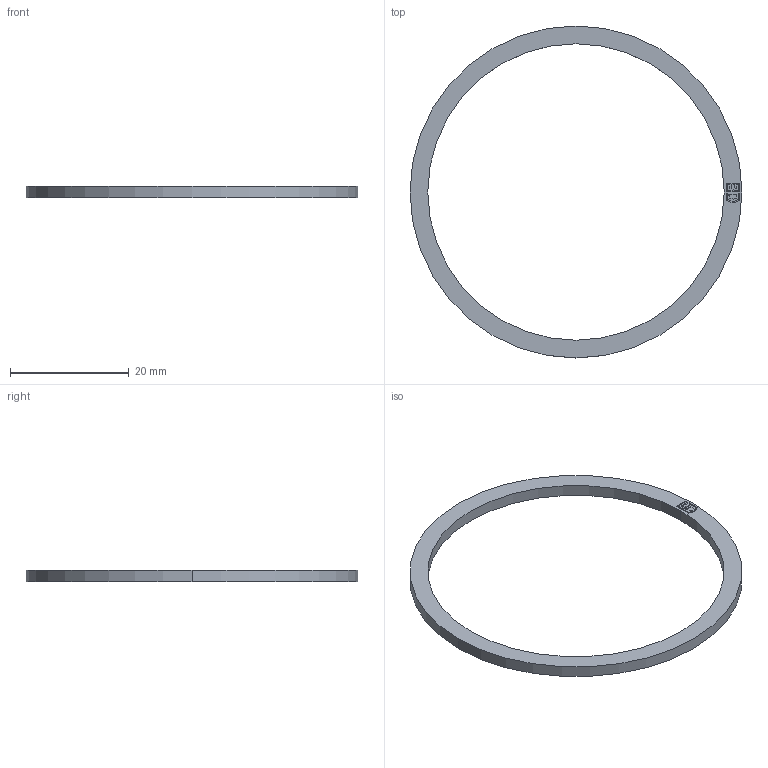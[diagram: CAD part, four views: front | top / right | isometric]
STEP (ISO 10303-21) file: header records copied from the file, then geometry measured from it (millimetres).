
FILE_DESCRIPTION (( 'STEP AP203' ), '1' );
FILE_NAME ('3M50-D.STEP', '2007-02-21T13:10:14', ( ' ' ), ( '' ), 'SwSTEP 2.0', 'SolidWorks 2005278', '' );
FILE_SCHEMA (( 'CONFIG_CONTROL_DESIGN' ));
Length unit declared in the file: millimetre
Products named in the file (1): 3M50-D
Bounding box: 56 x 56 x 2 mm (x, y, z)
Volume: 998.7 mm3; surface area: 1667.9 mm2
Topology: 1 solids, 1 shells, 43 faces, 114 edges, 76 vertices
Faces by surface type: plane 39, cylinder 4
Entity records: 1397 total; most frequent: CARTESIAN_POINT 234, ORIENTED_EDGE 228, DIRECTION 210, EDGE_CURVE 114, LINE 106, VECTOR 106, VERTEX_POINT 76, AXIS2_PLACEMENT_3D 52
